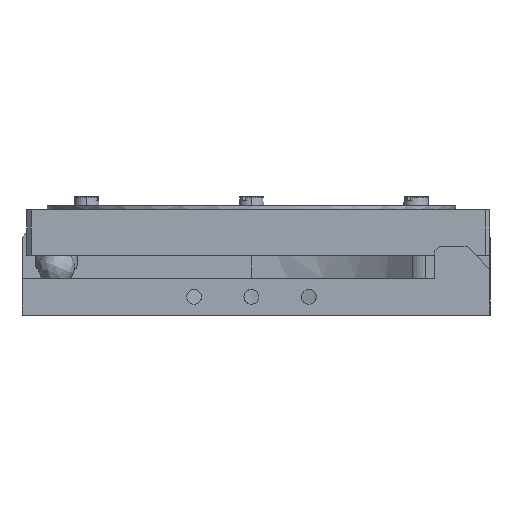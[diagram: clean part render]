
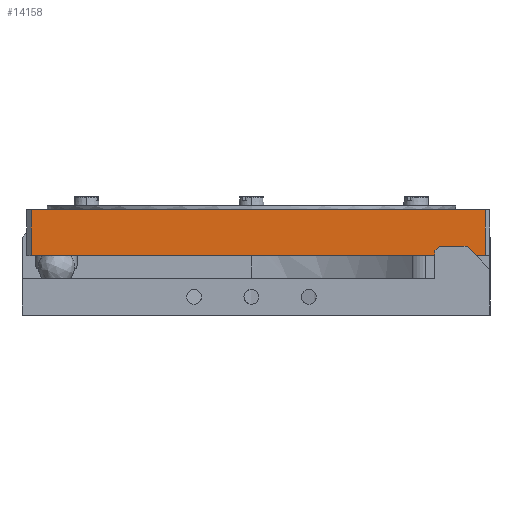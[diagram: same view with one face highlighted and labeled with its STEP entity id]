
A CAD part, front view. The second image highlights one B-rep face of the part: STEP entity #14158.
In plain terms, the highlighted planar face has unit normal (0, -1, 0).
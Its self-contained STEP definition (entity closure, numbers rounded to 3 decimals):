
#13867 = VERTEX_POINT ( 'NONE', #24954 ) ;
#13870 = EDGE_CURVE ( 'NONE', #13871, #13867, #24952, .T. ) ;
#13871 = VERTEX_POINT ( 'NONE', #24948 ) ;
#13910 = VERTEX_POINT ( 'NONE', #25004 ) ;
#13912 = EDGE_CURVE ( 'NONE', #13913, #13910, #25002, .T. ) ;
#13913 = VERTEX_POINT ( 'NONE', #25060 ) ;
#14136 = ORIENTED_EDGE ( 'NONE', *, *, #14137, .F. ) ;
#14137 = EDGE_CURVE ( 'NONE', #14138, #14153, #25439, .T. ) ;
#14138 = VERTEX_POINT ( 'NONE', #25435 ) ;
#14139 = ORIENTED_EDGE ( 'NONE', *, *, #14140, .T. ) ;
#14140 = EDGE_CURVE ( 'NONE', #14138, #13913, #25434, .T. ) ;
#14141 = ORIENTED_EDGE ( 'NONE', *, *, #13912, .T. ) ;
#14142 = ORIENTED_EDGE ( 'NONE', *, *, #14143, .T. ) ;
#14143 = EDGE_CURVE ( 'NONE', #13910, #14144, #25430, .T. ) ;
#14144 = VERTEX_POINT ( 'NONE', #25426 ) ;
#14153 = VERTEX_POINT ( 'NONE', #25452 ) ;
#14154 = EDGE_CURVE ( 'NONE', #13867, #14153, #25451, .T. ) ;
#14158 = ADVANCED_FACE ( 'NONE', ( #25513 ), #25512, .T. ) ;
#14159 = EDGE_LOOP ( 'NONE', ( #14136, #14139, #14141, #14142, #14203, #14206, #14208, #14209 ) ) ;
#14203 = ORIENTED_EDGE ( 'NONE', *, *, #14204, .T. ) ;
#14204 = EDGE_CURVE ( 'NONE', #14144, #14205, #25560, .T. ) ;
#14205 = VERTEX_POINT ( 'NONE', #25556 ) ;
#14206 = ORIENTED_EDGE ( 'NONE', *, *, #14207, .T. ) ;
#14207 = EDGE_CURVE ( 'NONE', #14205, #13871, #25555, .T. ) ;
#14208 = ORIENTED_EDGE ( 'NONE', *, *, #13870, .T. ) ;
#14209 = ORIENTED_EDGE ( 'NONE', *, *, #14154, .T. ) ;
#24581 = DIRECTION ( 'NONE',  ( 1., 0., 0. ) ) ;
#24583 = VECTOR ( 'NONE', #24581, 1000. ) ;
#24948 = CARTESIAN_POINT ( 'NONE',  ( -56.23, -39.028, 13. ) ) ;
#24949 = DIRECTION ( 'NONE',  ( 1., 0., 0. ) ) ;
#24950 = VECTOR ( 'NONE', #24949, 1000. ) ;
#24951 = CARTESIAN_POINT ( 'NONE',  ( 31.77, -39.028, 13. ) ) ;
#24952 = LINE ( 'NONE', #24951, #24950 ) ;
#24954 = CARTESIAN_POINT ( 'NONE',  ( 34.77, -39.028, 13. ) ) ;
#25001 = CARTESIAN_POINT ( 'NONE',  ( 31.77, -39.028, 13. ) ) ;
#25002 = LINE ( 'NONE', #25001, #24583 ) ;
#25004 = CARTESIAN_POINT ( 'NONE',  ( 42.77, -39.028, 13. ) ) ;
#25060 = CARTESIAN_POINT ( 'NONE',  ( 37.77, -39.028, 13. ) ) ;
#25426 = CARTESIAN_POINT ( 'NONE',  ( 42.77, -39.028, 23. ) ) ;
#25427 = DIRECTION ( 'NONE',  ( 0., 0., 1. ) ) ;
#25428 = VECTOR ( 'NONE', #25427, 1000. ) ;
#25429 = CARTESIAN_POINT ( 'NONE',  ( 42.77, -39.028, 9.9 ) ) ;
#25430 = LINE ( 'NONE', #25429, #25428 ) ;
#25431 = DIRECTION ( 'NONE',  ( 0., 0., 1. ) ) ;
#25432 = VECTOR ( 'NONE', #25431, 1000. ) ;
#25433 = CARTESIAN_POINT ( 'NONE',  ( 37.77, -39.028, 9.9 ) ) ;
#25434 = LINE ( 'NONE', #25433, #25432 ) ;
#25435 = CARTESIAN_POINT ( 'NONE',  ( 37.77, -39.028, 9.9 ) ) ;
#25436 = DIRECTION ( 'NONE',  ( -1., 0., 0. ) ) ;
#25437 = VECTOR ( 'NONE', #25436, 1000. ) ;
#25438 = CARTESIAN_POINT ( 'NONE',  ( 31.77, -39.028, 9.9 ) ) ;
#25439 = LINE ( 'NONE', #25438, #25437 ) ;
#25448 = DIRECTION ( 'NONE',  ( 0., 0., -1. ) ) ;
#25449 = VECTOR ( 'NONE', #25448, 1000. ) ;
#25450 = CARTESIAN_POINT ( 'NONE',  ( 34.77, -39.028, 9.9 ) ) ;
#25451 = LINE ( 'NONE', #25450, #25449 ) ;
#25452 = CARTESIAN_POINT ( 'NONE',  ( 34.77, -39.028, 9.9 ) ) ;
#25508 = DIRECTION ( 'NONE',  ( 0., 0., -1. ) ) ;
#25509 = DIRECTION ( 'NONE',  ( 0., -1., 0. ) ) ;
#25510 = CARTESIAN_POINT ( 'NONE',  ( 31.77, -39.028, 9.9 ) ) ;
#25511 = AXIS2_PLACEMENT_3D ( 'NONE', #25510, #25509, #25508 ) ;
#25512 = PLANE ( 'NONE',  #25511 ) ;
#25513 = FACE_OUTER_BOUND ( 'NONE', #14159, .T. ) ;
#25552 = DIRECTION ( 'NONE',  ( 0., 0., -1. ) ) ;
#25553 = VECTOR ( 'NONE', #25552, 1000. ) ;
#25554 = CARTESIAN_POINT ( 'NONE',  ( -56.23, -39.028, 9.9 ) ) ;
#25555 = LINE ( 'NONE', #25554, #25553 ) ;
#25556 = CARTESIAN_POINT ( 'NONE',  ( -56.23, -39.028, 23. ) ) ;
#25557 = DIRECTION ( 'NONE',  ( -1., 0., 0. ) ) ;
#25558 = VECTOR ( 'NONE', #25557, 1000. ) ;
#25559 = CARTESIAN_POINT ( 'NONE',  ( 31.77, -39.028, 23. ) ) ;
#25560 = LINE ( 'NONE', #25559, #25558 ) ;
